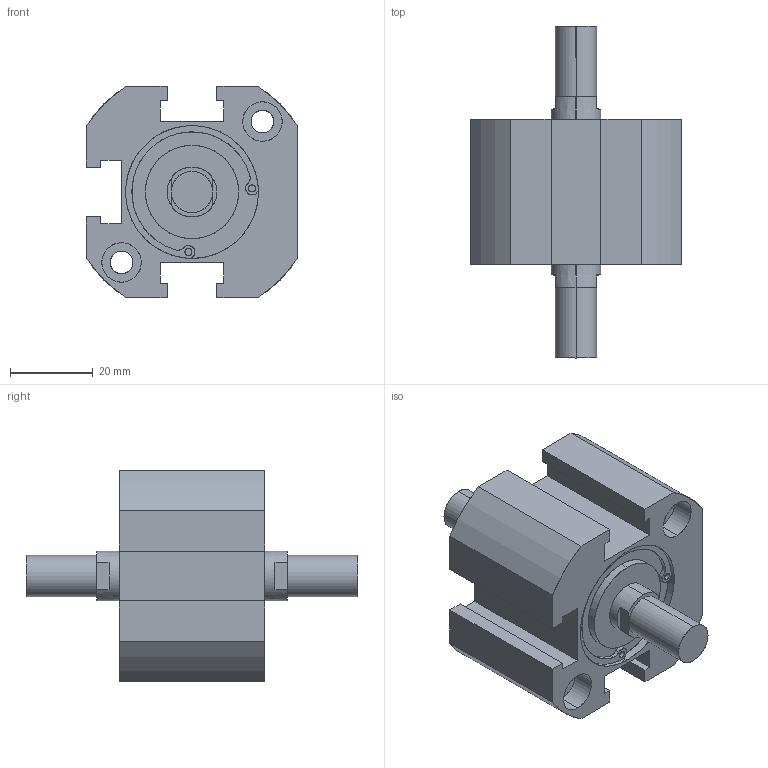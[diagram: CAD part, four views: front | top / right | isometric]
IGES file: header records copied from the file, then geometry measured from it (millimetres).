
Start section: SolidWorks IGES file using analytic representation for surfaces
Global section: file name: C:\Users\Toshiba\Desktop\XC#M7-32-10.IGS; native system: SolidWorks 2014; preprocessor: SolidWorks 2014; author: Toshiba; date: 160523.165609; units: millimetre
Bounding box: 51 x 80 x 51 mm (x, y, z)
Surface area: 17280.2 mm2 (no closed solid volume)
Topology: 0 solids, 0 shells, 133 faces, 2176 edges, 2172 vertices
Faces by surface type: revolution 73, bspline 60
